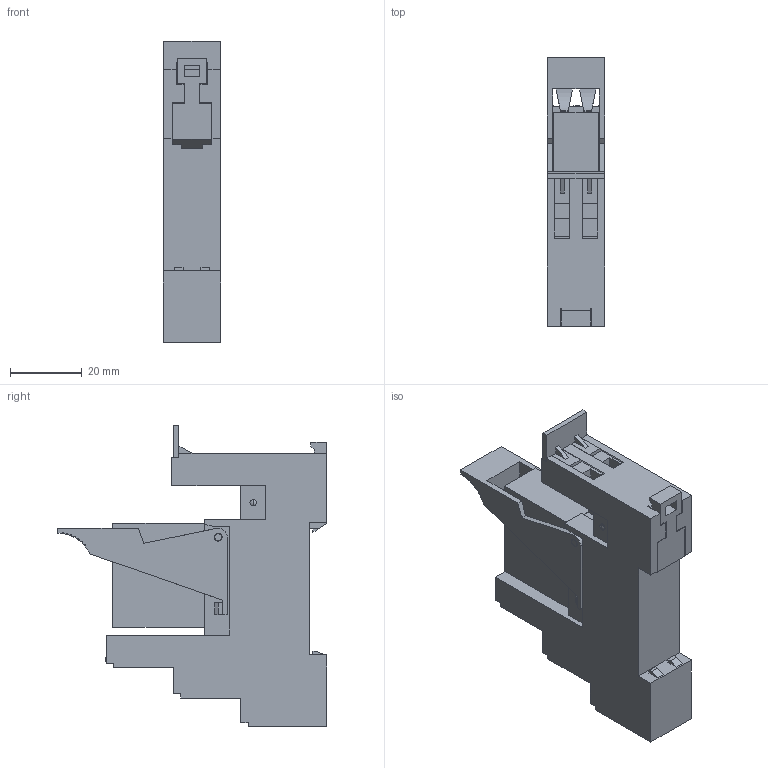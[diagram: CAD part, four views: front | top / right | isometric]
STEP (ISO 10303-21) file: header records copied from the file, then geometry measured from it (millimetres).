
FILE_DESCRIPTION (( 'STEP AP203' ), '1' );
FILE_NAME ('PRT7-2 - IRCG.STEP', '2019-03-27T12:47:24', ( '' ), ( '' ), 'SwSTEP 2.0', 'SolidWorks 2012', '' );
FILE_SCHEMA (( 'CONFIG_CONTROL_DESIGN' ));
Length unit declared in the file: millimetre
Products named in the file (1): PRT7-2 - IRCG
Bounding box: 15.9 x 74.75 x 83.8 mm (x, y, z)
Volume: 49472 mm3; surface area: 18322.5 mm2
Topology: 1 solids, 1 shells, 694 faces, 1854 edges, 1230 vertices
Faces by surface type: plane 546, bspline 87, cylinder 57, sphere 4
Entity records: 27063 total; most frequent: CARTESIAN_POINT 10178, ORIENTED_EDGE 3708, DIRECTION 2982, EDGE_CURVE 1854, VECTOR 1562, LINE 1562, VERTEX_POINT 1230, EDGE_LOOP 766
